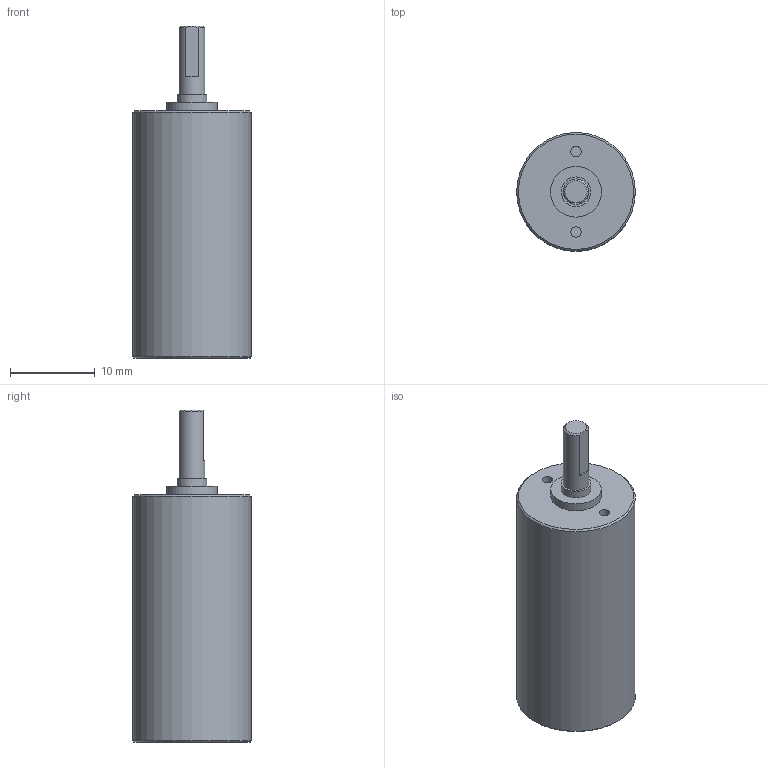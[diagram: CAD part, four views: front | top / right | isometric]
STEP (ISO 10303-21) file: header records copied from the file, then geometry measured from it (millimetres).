
FILE_DESCRIPTION(/* description */ (''),/* implementation_level */ '2;1');
FILE_NAME(/* name */ '14-1_3.stp',/* time_stamp */ '2016-08-24T13:45:02+02:00',/* author */ ('DR. FRITZ FAULHABER GmbH & Co. KG'),/* organization */ ('DR. FRITZ FAULHABER GmbH & Co. KG'),/* preprocessor_version */ 'ST-DEVELOPER v16',/* originating_system */ 'SIEMENS PLM Software NX 10.0',/* authorisation */ '');
FILE_SCHEMA (('AUTOMOTIVE_DESIGN { 1 0 10303 214 3 1 1 1 }'));
Length unit declared in the file: millimetre
Products named in the file (1): H00000256_A
Bounding box: 14 x 14 x 39.2 mm (x, y, z)
Volume: 3540.8 mm3; surface area: 2113.5 mm2
Topology: 1 solids, 1 shells, 22 faces, 38 edges, 25 vertices
Faces by surface type: plane 11, cylinder 8, cone 3
Full cylindrical faces by diameter (mm): 1.25 x2, 3 x1, 3.5 x1, 6 x2, 13 x1, 14 x1
Entity records: 483 total; most frequent: DIRECTION 89, CARTESIAN_POINT 76, ORIENTED_EDGE 50, AXIS2_PLACEMENT_3D 43, EDGE_LOOP 39, FACE_BOUND 32, EDGE_CURVE 25, ADVANCED_FACE 22
